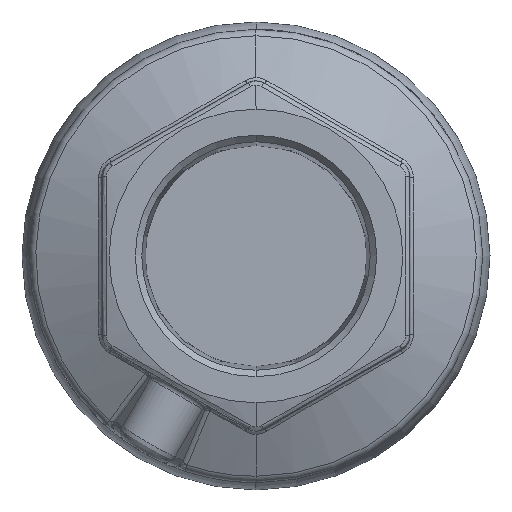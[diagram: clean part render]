
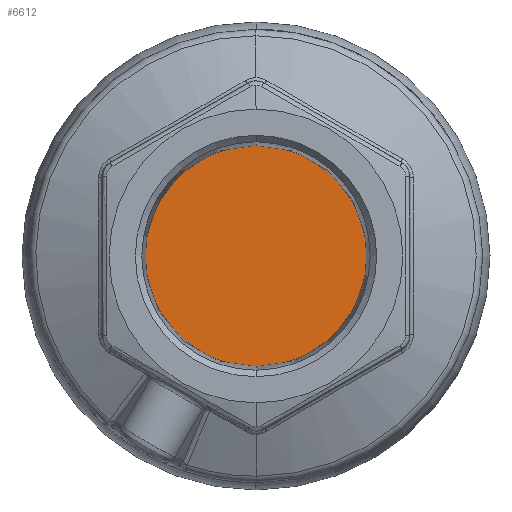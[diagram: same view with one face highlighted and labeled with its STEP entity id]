
A CAD part, left-side view. The second image highlights one B-rep face of the part: STEP entity #6612.
In plain terms, the highlighted planar face has unit normal (-1, 0, 0).
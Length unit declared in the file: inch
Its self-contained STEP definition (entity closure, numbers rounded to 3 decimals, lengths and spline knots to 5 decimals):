
#729 = CARTESIAN_POINT ( 'NONE',  ( 0.72, 0., -0.60057 ) ) ;
#735 = CARTESIAN_POINT ( 'NONE',  ( 0.72, 0., 0.60057 ) ) ;
#3341 = CIRCLE ( 'NONE', #3344, 0.60057 ) ;
#3344 = AXIS2_PLACEMENT_3D ( 'NONE', #3949, #3950, #3951 ) ;
#3949 = CARTESIAN_POINT ( 'NONE',  ( 0.72, 0., 0. ) ) ;
#3950 = DIRECTION ( 'NONE',  ( -1., 0., 0. ) ) ;
#3951 = DIRECTION ( 'NONE',  ( 0., 0., -1. ) ) ;
#4724 = CARTESIAN_POINT ( 'NONE',  ( 0.72, 0., 0. ) ) ;
#4726 = FACE_OUTER_BOUND ( 'NONE', #6067, .T. ) ;
#4727 = PLANE ( 'NONE',  #4876 ) ;
#4729 = DIRECTION ( 'NONE',  ( 1., 0., 0. ) ) ;
#4730 = DIRECTION ( 'NONE',  ( 0., 0., -1. ) ) ;
#4876 = AXIS2_PLACEMENT_3D ( 'NONE', #4724, #4729, #4730 ) ;
#5339 = EDGE_CURVE ( 'NONE', #5510, #5516, #5466, .T. ) ;
#5464 = AXIS2_PLACEMENT_3D ( 'NONE', #7604, #7605, #7606 ) ;
#5466 = CIRCLE ( 'NONE', #5464, 0.60057 ) ;
#5510 = VERTEX_POINT ( 'NONE', #729 ) ;
#5516 = VERTEX_POINT ( 'NONE', #735 ) ;
#6067 = EDGE_LOOP ( 'NONE', ( #7217, #7218 ) ) ;
#6582 = EDGE_CURVE ( 'NONE', #5516, #5510, #3341, .T. ) ;
#6612 = ADVANCED_FACE ( 'NONE', ( #4726 ), #4727, .F. ) ;
#7217 = ORIENTED_EDGE ( 'NONE', *, *, #6582, .T. ) ;
#7218 = ORIENTED_EDGE ( 'NONE', *, *, #5339, .T. ) ;
#7604 = CARTESIAN_POINT ( 'NONE',  ( 0.72, 0., 0. ) ) ;
#7605 = DIRECTION ( 'NONE',  ( -1., 0., 0. ) ) ;
#7606 = DIRECTION ( 'NONE',  ( 0., 0., -1. ) ) ;
